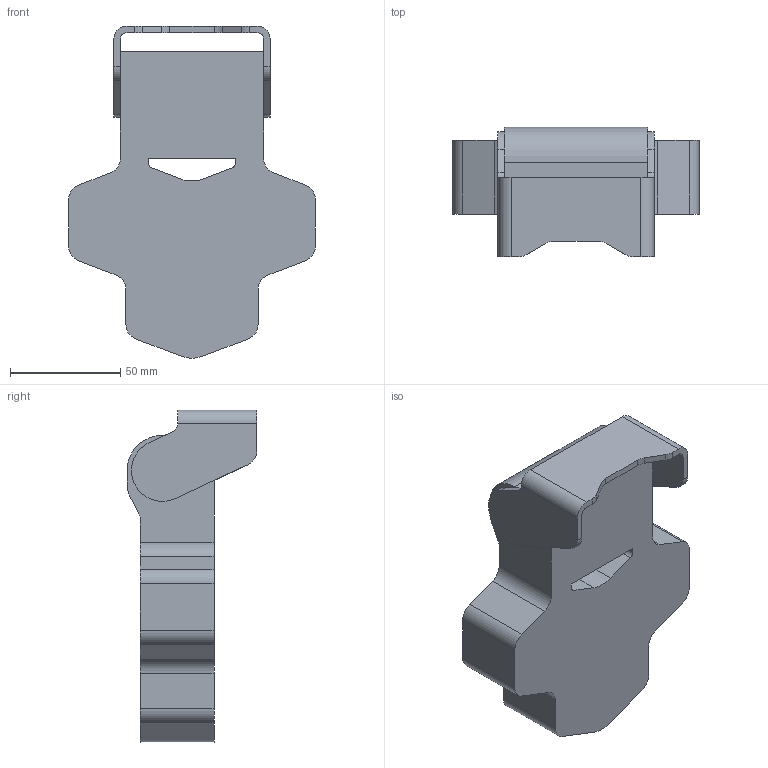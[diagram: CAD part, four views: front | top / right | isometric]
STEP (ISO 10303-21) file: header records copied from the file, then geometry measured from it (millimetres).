
FILE_DESCRIPTION (( 'STEP AP214' ), '1' );
FILE_NAME ('RAD-W-As-12.STEP', '2022-05-17T09:55:26', ( '' ), ( '' ), 'SwSTEP 2.0', 'SolidWorks 2020', '' );
FILE_SCHEMA (( 'AUTOMOTIVE_DESIGN' ));
Length unit declared in the file: millimetre
Products named in the file (1): RAD-W-As-12
Bounding box: 112 x 59 x 150.79 mm (x, y, z)
Volume: 364770.3 mm3; surface area: 46367.9 mm2
Topology: 1 solids, 1 shells, 69 faces, 203 edges, 134 vertices
Faces by surface type: plane 38, cylinder 28, bspline 3
Entity records: 3208 total; most frequent: CARTESIAN_POINT 622, ORIENTED_EDGE 406, DIRECTION 387, EDGE_CURVE 203, LINE 141, VECTOR 141, VERTEX_POINT 134, AXIS2_PLACEMENT_3D 123
